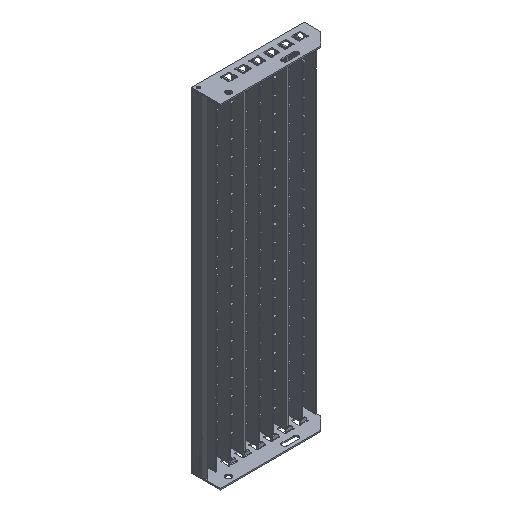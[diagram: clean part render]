
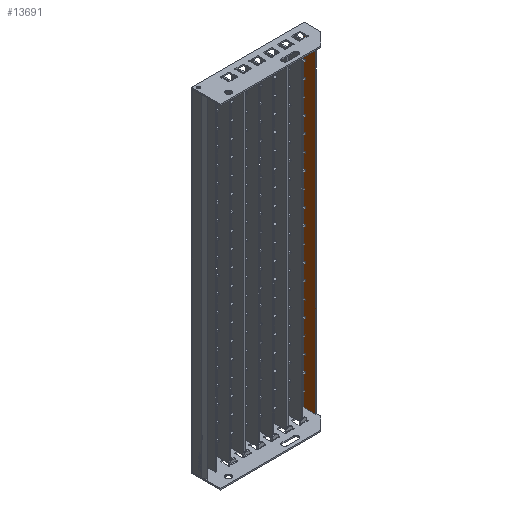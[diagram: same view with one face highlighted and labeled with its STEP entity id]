
A CAD part, isometric view. The second image highlights one B-rep face of the part: STEP entity #13691.
In plain terms, the highlighted planar face has unit normal (-1, 0, 0) as drawn and (1, 0, 0) by its records, which use the part's own axes.
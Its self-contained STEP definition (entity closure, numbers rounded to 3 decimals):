
#1515=FACE_OUTER_BOUND('',#2330,.T.);
#2330=EDGE_LOOP('',(#12651,#12652,#12653,#12654));
#3500=LINE('',#28390,#4673);
#3502=LINE('',#28394,#4675);
#3503=LINE('',#28396,#4676);
#3504=LINE('',#28397,#4677);
#4673=VECTOR('',#19287,10.);
#4675=VECTOR('',#19291,10.);
#4676=VECTOR('',#19292,10.);
#4677=VECTOR('',#19293,10.);
#6738=VERTEX_POINT('',#28387);
#6739=VERTEX_POINT('',#28389);
#6740=VERTEX_POINT('',#28393);
#6741=VERTEX_POINT('',#28395);
#8710=EDGE_CURVE('',#6739,#6738,#3500,.T.);
#8712=EDGE_CURVE('',#6738,#6740,#3502,.T.);
#8713=EDGE_CURVE('',#6741,#6740,#3503,.T.);
#8714=EDGE_CURVE('',#6741,#6739,#3504,.T.);
#12651=ORIENTED_EDGE('',*,*,#8712,.T.);
#12652=ORIENTED_EDGE('',*,*,#8713,.F.);
#12653=ORIENTED_EDGE('',*,*,#8714,.T.);
#12654=ORIENTED_EDGE('',*,*,#8710,.T.);
#13007=PLANE('',#15281);
#13691=ADVANCED_FACE('',(#1515),#13007,.T.);
#15281=AXIS2_PLACEMENT_3D('',#28392,#19289,#19290);
#19287=DIRECTION('',(0.,1.,0.));
#19289=DIRECTION('center_axis',(1.,0.,0.));
#19290=DIRECTION('ref_axis',(0.,0.,-1.));
#19291=DIRECTION('',(0.,0.,1.));
#19292=DIRECTION('',(0.,1.,0.));
#19293=DIRECTION('',(0.,0.,-1.));
#28387=CARTESIAN_POINT('',(0.,794.,-30.));
#28389=CARTESIAN_POINT('',(0.,0.,-30.));
#28390=CARTESIAN_POINT('',(0.,0.,-30.));
#28392=CARTESIAN_POINT('Origin',(0.,0.,-30.));
#28393=CARTESIAN_POINT('',(0.,794.,0.));
#28394=CARTESIAN_POINT('',(0.,794.,0.));
#28395=CARTESIAN_POINT('',(0.,0.,0.));
#28396=CARTESIAN_POINT('',(0.,0.,0.));
#28397=CARTESIAN_POINT('',(0.,0.,0.));
